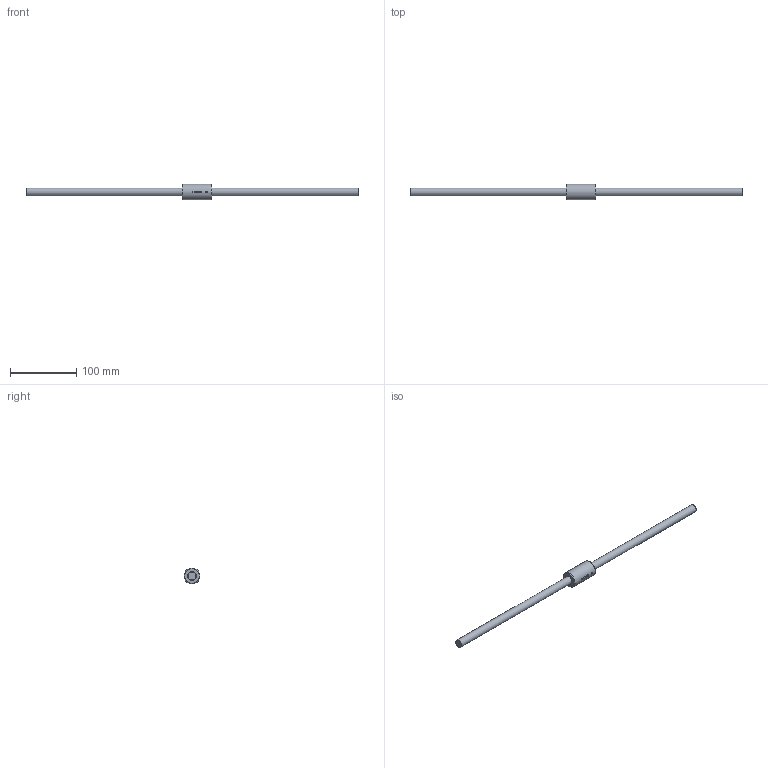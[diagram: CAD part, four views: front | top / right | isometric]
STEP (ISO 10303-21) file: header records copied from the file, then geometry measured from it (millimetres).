
FILE_DESCRIPTION (( 'STEP AP203' ), '1' );
FILE_NAME ('SCNH01210-2.8.step', '2024-05-10T01:55:07', ( '' ), ( '' ), 'SwSTEP 2.0', 'SolidWorks 2022', '' );
FILE_SCHEMA (( 'CONFIG_CONTROL_DESIGN' ));
Length unit declared in the file: millimetre
Products named in the file (1): SCNH01210-2.8
Bounding box: 500 x 24 x 24 mm (x, y, z)
Volume: 70713.7 mm3; surface area: 24970.1 mm2
Topology: 2 solids, 2 shells, 15 faces, 29 edges, 19 vertices
Faces by surface type: plane 7, cylinder 6, torus 2
Full cylindrical faces by diameter (mm): 3 x1, 12 x1, 13.1 x1, 24 x1
Entity records: 579 total; most frequent: CARTESIAN_POINT 214, DIRECTION 60, ORIENTED_EDGE 44, EDGE_LOOP 26, AXIS2_PLACEMENT_3D 26, EDGE_CURVE 22, FACE_OUTER_BOUND 21, VERTEX_POINT 18
